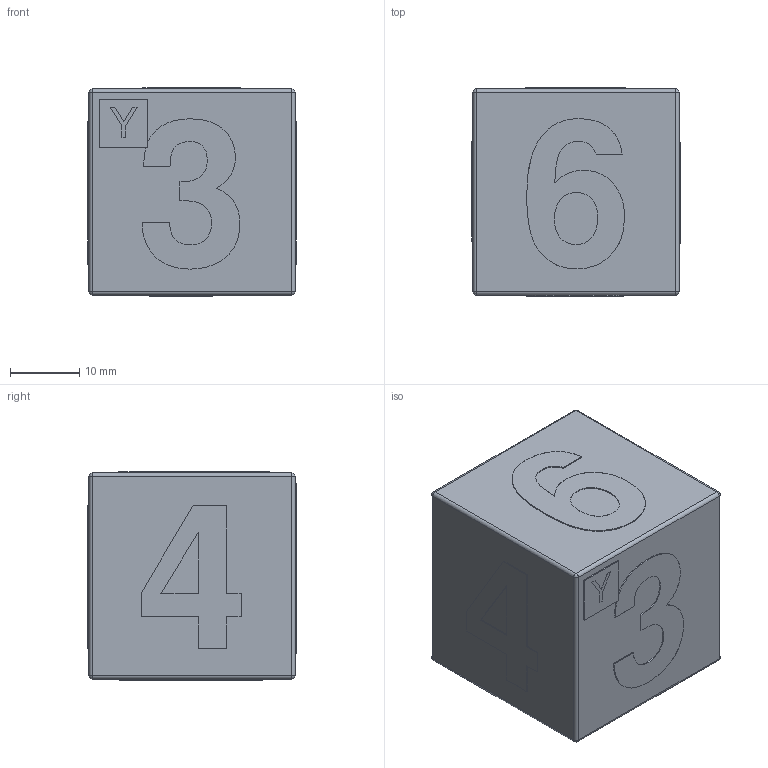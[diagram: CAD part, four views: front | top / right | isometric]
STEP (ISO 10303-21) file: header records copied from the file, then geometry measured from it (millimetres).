
FILE_DESCRIPTION(('Open CASCADE Model'),'2;1');
FILE_NAME('Open CASCADE Shape Model','2025-09-14T20:47:17',('Author'),( 'Open CASCADE'),'Open CASCADE STEP processor 7.8','Open CASCADE 7.8' ,'Unknown');
FILE_SCHEMA(('AUTOMOTIVE_DESIGN { 1 0 10303 214 1 1 1 1 }'));
Length unit declared in the file: millimetre
Products named in the file (20): 9eb4658e-91a3-11f0-88d2-1c1b0deae66b; 9eb4673c-91a3-11f0-88d2-1c1b0deae66b; 9eb4673c-91a3-11f0-88d2-1c1b0deae66b_part; 9ec20c0c-91a3-11f0-88d2-1c1b0deae66b; 9ec20c0c-91a3-11f0-88d2-1c1b0deae66b_part; 9ec38672-91a3-11f0-88d2-1c1b0deae66b; 9ec38672-91a3-11f0-88d2-1c1b0deae66b_part; 9ec4c96a-91a3-11f0-88d2-1c1b0deae66b; 9ec4c96a-91a3-11f0-88d2-1c1b0deae66b_part; 9ec61306-91a3-11f0-88d2-1c1b0deae66b; 9ec61306-91a3-11f0-88d2-1c1b0deae66b_part; 9ec7dc04-91a3-11f0-88d2-1c1b0deae66b; 9ec7dc04-91a3-11f0-88d2-1c1b0deae66b_part; 9ec8f6d4-91a3-11f0-88d2-1c1b0deae66b; 9ec8f6d4-91a3-11f0-88d2-1c1b0deae66b_part; 9ecc8aa6-91a3-11f0-88d2-1c1b0deae66b; 9ecc8aa6-91a3-11f0-88d2-1c1b0deae66b_part; 9ecc8c18-91a3-11f0-88d2-1c1b0deae66b; 9ecc8c18-91a3-11f0-88d2-1c1b0deae66b_part
Assembly tree (19 placements, depth 4):
  9eb4658e-91a3-11f0-88d2-1c1b0deae66b
    9eb4658e-91a3-11f0-88d2-1c1b0deae66b
      9eb4673c-91a3-11f0-88d2-1c1b0deae66b
        9eb4673c-91a3-11f0-88d2-1c1b0deae66b_part
      9ec20c0c-91a3-11f0-88d2-1c1b0deae66b
        9ec20c0c-91a3-11f0-88d2-1c1b0deae66b_part
      9ec38672-91a3-11f0-88d2-1c1b0deae66b
        9ec38672-91a3-11f0-88d2-1c1b0deae66b_part
      9ec4c96a-91a3-11f0-88d2-1c1b0deae66b
        9ec4c96a-91a3-11f0-88d2-1c1b0deae66b_part
      9ec61306-91a3-11f0-88d2-1c1b0deae66b
        9ec61306-91a3-11f0-88d2-1c1b0deae66b_part
      9ec7dc04-91a3-11f0-88d2-1c1b0deae66b
        9ec7dc04-91a3-11f0-88d2-1c1b0deae66b_part
      9ec8f6d4-91a3-11f0-88d2-1c1b0deae66b
        9ec8f6d4-91a3-11f0-88d2-1c1b0deae66b_part
      9ecc8aa6-91a3-11f0-88d2-1c1b0deae66b
        9ecc8aa6-91a3-11f0-88d2-1c1b0deae66b_part
      9ecc8c18-91a3-11f0-88d2-1c1b0deae66b
        9ecc8c18-91a3-11f0-88d2-1c1b0deae66b_part
Bounding box: 30 x 30 x 30 mm (x, y, z)
Volume: 26315.9 mm3; surface area: 7124.8 mm2
Topology: 9 solids, 9 shells, 179 faces, 467 edges, 298 vertices
Faces by surface type: plane 102, extrusion 57, cylinder 12, sphere 8
Entity records: 11810 total; most frequent: CARTESIAN_POINT 2518, DIRECTION 1476, VECTOR 1144, LINE 1087, ORIENTED_EDGE 918, PCURVE 918, DEFINITIONAL_REPRESENTATION 918, EDGE_CURVE 459
